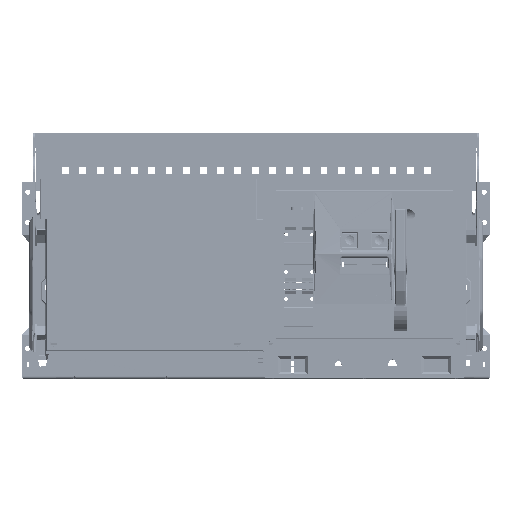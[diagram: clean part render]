
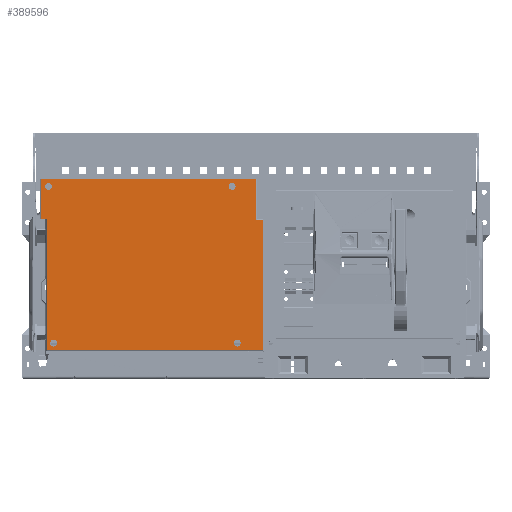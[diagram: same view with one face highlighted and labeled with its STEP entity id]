
A CAD part, top view. The second image highlights one B-rep face of the part: STEP entity #389596.
In plain terms, the highlighted planar face has unit normal (0, 0, 1).
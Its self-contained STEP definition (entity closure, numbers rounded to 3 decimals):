
#387951=CARTESIAN_POINT(' ',(-236.5,335.491,-3.));
#387952=VERTEX_POINT(' ',#387951);
#388031=CARTESIAN_POINT(' ',(-224.5,335.5,-3.));
#388032=VERTEX_POINT(' ',#388031);
#388046=CARTESIAN_POINT(' ',(-230.5,335.5,-3.));
#388051=DIRECTION(' ',(0.,0.,-1.));
#388056=DIRECTION(' ',(-1.,-0.001,0.));
#388061=AXIS2_PLACEMENT_3D(' ',#388046,#388051,#388056);
#388066=CIRCLE('',#388061,6.);
#388071=EDGE_CURVE(' ',#387952,#388032,#388066,.T.);
#388181=CARTESIAN_POINT(' ',(-230.5,335.5,-3.));
#388186=DIRECTION(' ',(0.,0.,-1.));
#388191=DIRECTION(' ',(1.,0.,0.));
#388196=AXIS2_PLACEMENT_3D(' ',#388181,#388186,#388191);
#388201=CIRCLE('',#388196,6.);
#388206=EDGE_CURVE(' ',#388032,#387952,#388201,.T.);
#388991=DIRECTION(' ',(0.,0.,1.));
#388996=CARTESIAN_POINT(' ',(-563.5,50.5,-3.));
#389001=DIRECTION(' ',(1.,0.,0.));
#389006=AXIS2_PLACEMENT_3D(' ',#388996,#388991,#389001);
#389011=PLANE('',#389006);
#389016=CARTESIAN_POINT(' ',(-177.5,276.5,-3.));
#389021=DIRECTION(' ',(-1.,0.,0.));
#389026=VECTOR(' ',#389021,1.);
#389031=LINE('',#389016,#389026);
#389036=CARTESIAN_POINT(' ',(-177.5,276.5,-3.));
#389037=VERTEX_POINT(' ',#389036);
#389041=CARTESIAN_POINT(' ',(-188.5,276.5,-3.));
#389042=VERTEX_POINT(' ',#389041);
#389046=EDGE_CURVE(' ',#389037,#389042,#389031,.T.);
#389051=ORIENTED_EDGE(' ',*,*,#389046,.T.);
#389056=CARTESIAN_POINT(' ',(-188.5,276.5,-3.));
#389061=DIRECTION(' ',(0.,1.,0.));
#389066=VECTOR(' ',#389061,1.);
#389071=LINE('',#389056,#389066);
#389076=CARTESIAN_POINT(' ',(-188.5,347.5,-3.));
#389077=VERTEX_POINT(' ',#389076);
#389081=EDGE_CURVE(' ',#389042,#389077,#389071,.T.);
#389086=ORIENTED_EDGE(' ',*,*,#389081,.T.);
#389091=CARTESIAN_POINT(' ',(-188.5,347.5,-3.));
#389096=DIRECTION(' ',(-1.,0.,0.));
#389101=VECTOR(' ',#389096,1.);
#389106=LINE('',#389091,#389101);
#389111=CARTESIAN_POINT(' ',(-563.5,347.5,-3.));
#389112=VERTEX_POINT(' ',#389111);
#389116=EDGE_CURVE(' ',#389077,#389112,#389106,.T.);
#389121=ORIENTED_EDGE(' ',*,*,#389116,.T.);
#389126=CARTESIAN_POINT(' ',(-563.5,347.5,-3.));
#389131=DIRECTION(' ',(0.,-1.,0.));
#389136=VECTOR(' ',#389131,1.);
#389141=LINE('',#389126,#389136);
#389146=CARTESIAN_POINT(' ',(-563.5,279.5,-3.));
#389147=VERTEX_POINT(' ',#389146);
#389151=EDGE_CURVE(' ',#389112,#389147,#389141,.T.);
#389156=ORIENTED_EDGE(' ',*,*,#389151,.T.);
#389161=CARTESIAN_POINT(' ',(-563.5,279.5,-3.));
#389166=DIRECTION(' ',(1.,0.,0.));
#389171=VECTOR(' ',#389166,1.);
#389176=LINE('',#389161,#389171);
#389181=CARTESIAN_POINT(' ',(-552.5,279.5,-3.));
#389182=VERTEX_POINT(' ',#389181);
#389186=EDGE_CURVE(' ',#389147,#389182,#389176,.T.);
#389191=ORIENTED_EDGE(' ',*,*,#389186,.T.);
#389196=CARTESIAN_POINT(' ',(-552.5,279.5,-3.));
#389201=DIRECTION(' ',(0.,-1.,0.));
#389206=VECTOR(' ',#389201,1.);
#389211=LINE('',#389196,#389206);
#389216=CARTESIAN_POINT(' ',(-552.5,50.5,-3.));
#389217=VERTEX_POINT(' ',#389216);
#389221=EDGE_CURVE(' ',#389182,#389217,#389211,.T.);
#389226=ORIENTED_EDGE(' ',*,*,#389221,.T.);
#389231=CARTESIAN_POINT(' ',(-552.5,50.5,-3.));
#389236=DIRECTION(' ',(1.,0.,0.));
#389241=VECTOR(' ',#389236,1.);
#389246=LINE('',#389231,#389241);
#389251=CARTESIAN_POINT(' ',(-177.5,50.5,-3.));
#389252=VERTEX_POINT(' ',#389251);
#389256=EDGE_CURVE(' ',#389217,#389252,#389246,.T.);
#389261=ORIENTED_EDGE(' ',*,*,#389256,.T.);
#389266=CARTESIAN_POINT(' ',(-177.5,50.5,-3.));
#389271=DIRECTION(' ',(0.,1.,0.));
#389276=VECTOR(' ',#389271,1.);
#389281=LINE('',#389266,#389276);
#389286=EDGE_CURVE(' ',#389252,#389037,#389281,.T.);
#389291=ORIENTED_EDGE(' ',*,*,#389286,.T.);
#389296=EDGE_LOOP(' ',(#389051,#389086,#389121,#389156,#389191,#389226,#389261,#389291));
#389301=FACE_OUTER_BOUND(' ',#389296,.T.);
#389306=CARTESIAN_POINT(' ',(-221.5,62.5,-3.));
#389311=DIRECTION(' ',(0.,0.,-1.));
#389316=DIRECTION(' ',(-1.,-0.001,0.));
#389321=AXIS2_PLACEMENT_3D(' ',#389306,#389311,#389316);
#389326=CIRCLE('',#389321,6.);
#389331=CARTESIAN_POINT(' ',(-227.5,62.491,-3.));
#389332=VERTEX_POINT(' ',#389331);
#389336=CARTESIAN_POINT(' ',(-215.5,62.5,-3.));
#389337=VERTEX_POINT(' ',#389336);
#389341=EDGE_CURVE(' ',#389332,#389337,#389326,.T.);
#389346=ORIENTED_EDGE(' ',*,*,#389341,.T.);
#389351=CARTESIAN_POINT(' ',(-221.5,62.5,-3.));
#389356=DIRECTION(' ',(0.,0.,-1.));
#389361=DIRECTION(' ',(1.,0.,0.));
#389366=AXIS2_PLACEMENT_3D(' ',#389351,#389356,#389361);
#389371=CIRCLE('',#389366,6.);
#389376=EDGE_CURVE(' ',#389337,#389332,#389371,.T.);
#389381=ORIENTED_EDGE(' ',*,*,#389376,.T.);
#389386=EDGE_LOOP(' ',(#389346,#389381));
#389391=FACE_BOUND(' ',#389386,.T.);
#389396=CARTESIAN_POINT(' ',(-541.5,62.5,-3.));
#389401=DIRECTION(' ',(0.,0.,-1.));
#389406=DIRECTION(' ',(-1.,-0.001,0.));
#389411=AXIS2_PLACEMENT_3D(' ',#389396,#389401,#389406);
#389416=CIRCLE('',#389411,6.);
#389421=CARTESIAN_POINT(' ',(-547.5,62.491,-3.));
#389422=VERTEX_POINT(' ',#389421);
#389426=CARTESIAN_POINT(' ',(-535.5,62.5,-3.));
#389427=VERTEX_POINT(' ',#389426);
#389431=EDGE_CURVE(' ',#389422,#389427,#389416,.T.);
#389436=ORIENTED_EDGE(' ',*,*,#389431,.T.);
#389441=CARTESIAN_POINT(' ',(-541.5,62.5,-3.));
#389446=DIRECTION(' ',(0.,0.,-1.));
#389451=DIRECTION(' ',(1.,0.,0.));
#389456=AXIS2_PLACEMENT_3D(' ',#389441,#389446,#389451);
#389461=CIRCLE('',#389456,6.);
#389466=EDGE_CURVE(' ',#389427,#389422,#389461,.T.);
#389471=ORIENTED_EDGE(' ',*,*,#389466,.T.);
#389476=EDGE_LOOP(' ',(#389436,#389471));
#389481=FACE_BOUND(' ',#389476,.T.);
#389486=ORIENTED_EDGE(' ',*,*,#388071,.T.);
#389491=ORIENTED_EDGE(' ',*,*,#388206,.T.);
#389496=EDGE_LOOP(' ',(#389486,#389491));
#389501=FACE_BOUND(' ',#389496,.T.);
#389506=CARTESIAN_POINT(' ',(-550.5,335.5,-3.));
#389511=DIRECTION(' ',(0.,0.,-1.));
#389516=DIRECTION(' ',(-1.,-0.001,0.));
#389521=AXIS2_PLACEMENT_3D(' ',#389506,#389511,#389516);
#389526=CIRCLE('',#389521,6.);
#389531=CARTESIAN_POINT(' ',(-556.5,335.491,-3.));
#389532=VERTEX_POINT(' ',#389531);
#389536=CARTESIAN_POINT(' ',(-544.5,335.5,-3.));
#389537=VERTEX_POINT(' ',#389536);
#389541=EDGE_CURVE(' ',#389532,#389537,#389526,.T.);
#389546=ORIENTED_EDGE(' ',*,*,#389541,.T.);
#389551=CARTESIAN_POINT(' ',(-550.5,335.5,-3.));
#389556=DIRECTION(' ',(0.,0.,-1.));
#389561=DIRECTION(' ',(1.,0.,0.));
#389566=AXIS2_PLACEMENT_3D(' ',#389551,#389556,#389561);
#389571=CIRCLE('',#389566,6.);
#389576=EDGE_CURVE(' ',#389537,#389532,#389571,.T.);
#389581=ORIENTED_EDGE(' ',*,*,#389576,.T.);
#389586=EDGE_LOOP(' ',(#389546,#389581));
#389591=FACE_BOUND(' ',#389586,.T.);
#389596=ADVANCED_FACE('',(#389301,#389391,#389481,#389501,#389591),#389011,.T.);
